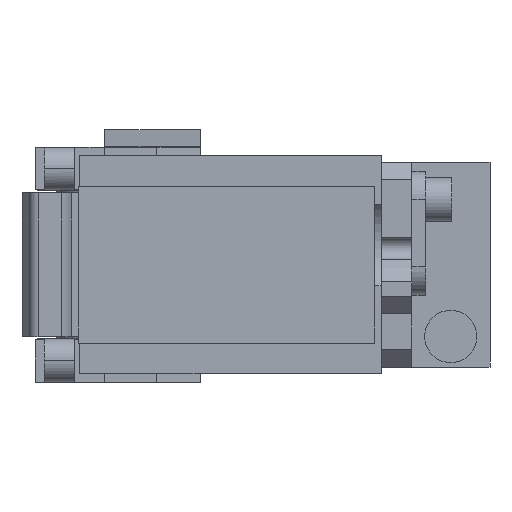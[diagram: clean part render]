
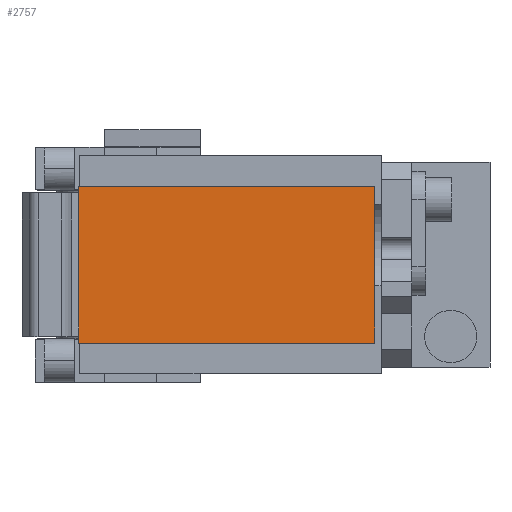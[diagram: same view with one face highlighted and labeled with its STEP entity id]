
A CAD part, front view. The second image highlights one B-rep face of the part: STEP entity #2757.
In plain terms, the highlighted planar face has unit normal (0, -1, 0).
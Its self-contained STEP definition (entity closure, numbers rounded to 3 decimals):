
#263 = EDGE_CURVE ( 'NONE', #8562, #9468, #11445, .T. ) ;
#409 = CARTESIAN_POINT ( 'NONE',  ( -6., -233., -18. ) ) ;
#1442 = VECTOR ( 'NONE', #3847, 1000. ) ;
#1462 = DIRECTION ( 'NONE',  ( 0., 0., -1. ) ) ;
#1785 = CARTESIAN_POINT ( 'NONE',  ( -6., -233., 18. ) ) ;
#1949 = EDGE_LOOP ( 'NONE', ( #4033, #6142, #5526, #5089 ) ) ;
#2533 = CARTESIAN_POINT ( 'NONE',  ( 0., -233., 0. ) ) ;
#2757 = ADVANCED_FACE ( 'NONE', ( #12205 ), #4595, .T. ) ;
#3117 = EDGE_CURVE ( 'NONE', #3209, #8562, #6611, .T. ) ;
#3209 = VERTEX_POINT ( 'NONE', #409 ) ;
#3317 = CARTESIAN_POINT ( 'NONE',  ( -6., -233., -18. ) ) ;
#3847 = DIRECTION ( 'NONE',  ( -1., 0., 0. ) ) ;
#4033 = ORIENTED_EDGE ( 'NONE', *, *, #12688, .T. ) ;
#4595 = PLANE ( 'NONE',  #10095 ) ;
#5089 = ORIENTED_EDGE ( 'NONE', *, *, #6888, .T. ) ;
#5526 = ORIENTED_EDGE ( 'NONE', *, *, #263, .T. ) ;
#5943 = VECTOR ( 'NONE', #8924, 1000. ) ;
#6142 = ORIENTED_EDGE ( 'NONE', *, *, #3117, .T. ) ;
#6611 = LINE ( 'NONE', #3317, #5943 ) ;
#6823 = DIRECTION ( 'NONE',  ( 0., -1., 0. ) ) ;
#6888 = EDGE_CURVE ( 'NONE', #9468, #7256, #9191, .T. ) ;
#6914 = CARTESIAN_POINT ( 'NONE',  ( 62., -233., 18. ) ) ;
#7002 = LINE ( 'NONE', #12171, #10798 ) ;
#7256 = VERTEX_POINT ( 'NONE', #11561 ) ;
#8562 = VERTEX_POINT ( 'NONE', #12912 ) ;
#8591 = CARTESIAN_POINT ( 'NONE',  ( 62., -233., 18. ) ) ;
#8924 = DIRECTION ( 'NONE',  ( 1., 0., 0. ) ) ;
#9191 = LINE ( 'NONE', #1785, #1442 ) ;
#9468 = VERTEX_POINT ( 'NONE', #8591 ) ;
#10095 = AXIS2_PLACEMENT_3D ( 'NONE', #2533, #6823, #1462 ) ;
#10798 = VECTOR ( 'NONE', #12387, 1000. ) ;
#11445 = LINE ( 'NONE', #6914, #13187 ) ;
#11561 = CARTESIAN_POINT ( 'NONE',  ( -6., -233., 18. ) ) ;
#12171 = CARTESIAN_POINT ( 'NONE',  ( -6., -233., 18. ) ) ;
#12205 = FACE_OUTER_BOUND ( 'NONE', #1949, .T. ) ;
#12369 = DIRECTION ( 'NONE',  ( 0., 0., 1. ) ) ;
#12387 = DIRECTION ( 'NONE',  ( 0., 0., -1. ) ) ;
#12688 = EDGE_CURVE ( 'NONE', #7256, #3209, #7002, .T. ) ;
#12912 = CARTESIAN_POINT ( 'NONE',  ( 62., -233., -18. ) ) ;
#13187 = VECTOR ( 'NONE', #12369, 1000. ) ;
